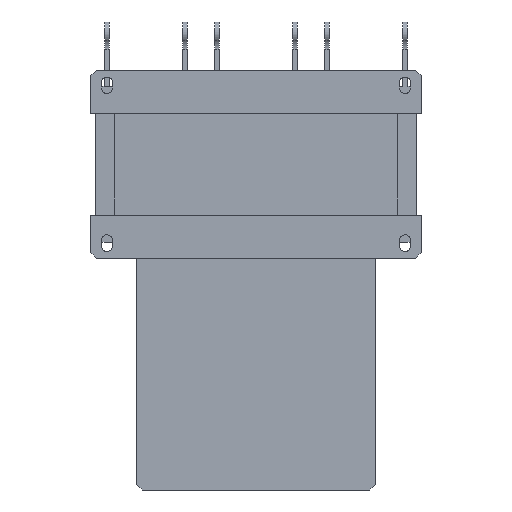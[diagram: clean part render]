
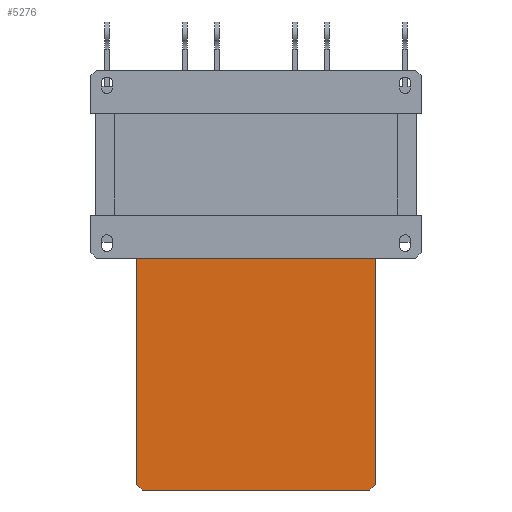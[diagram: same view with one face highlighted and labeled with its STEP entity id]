
A CAD part, front view. The second image highlights one B-rep face of the part: STEP entity #5276.
In plain terms, the highlighted planar face has unit normal (0, -1, 0).
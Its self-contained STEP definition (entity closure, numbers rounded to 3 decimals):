
#592=FACE_OUTER_BOUND('',#936,.T.);
#936=EDGE_LOOP('',(#4325,#4326,#4327,#4328,#4329,#4330));
#1401=LINE('',#8447,#1949);
#1407=LINE('',#8458,#1955);
#1413=LINE('',#8470,#1961);
#1417=LINE('',#8478,#1965);
#1418=LINE('',#8481,#1966);
#1422=LINE('',#8488,#1970);
#1949=VECTOR('',#6887,10.);
#1955=VECTOR('',#6895,10.);
#1961=VECTOR('',#6905,10.);
#1965=VECTOR('',#6911,10.);
#1966=VECTOR('',#6914,10.);
#1970=VECTOR('',#6920,10.);
#2467=VERTEX_POINT('',#8445);
#2468=VERTEX_POINT('',#8446);
#2472=VERTEX_POINT('',#8456);
#2476=VERTEX_POINT('',#8468);
#2479=VERTEX_POINT('',#8476);
#2480=VERTEX_POINT('',#8480);
#3099=EDGE_CURVE('',#2467,#2468,#1401,.T.);
#3105=EDGE_CURVE('',#2467,#2472,#1407,.T.);
#3111=EDGE_CURVE('',#2476,#2472,#1413,.T.);
#3115=EDGE_CURVE('',#2479,#2476,#1417,.T.);
#3116=EDGE_CURVE('',#2468,#2480,#1418,.T.);
#3120=EDGE_CURVE('',#2479,#2480,#1422,.T.);
#4325=ORIENTED_EDGE('',*,*,#3099,.F.);
#4326=ORIENTED_EDGE('',*,*,#3105,.T.);
#4327=ORIENTED_EDGE('',*,*,#3111,.F.);
#4328=ORIENTED_EDGE('',*,*,#3115,.F.);
#4329=ORIENTED_EDGE('',*,*,#3120,.T.);
#4330=ORIENTED_EDGE('',*,*,#3116,.F.);
#5004=PLANE('',#5760);
#5276=ADVANCED_FACE('',(#592),#5004,.T.);
#5760=AXIS2_PLACEMENT_3D('',#8493,#6927,#6928);
#6887=DIRECTION('',(-0.707,0.,0.707));
#6895=DIRECTION('',(1.,0.,0.));
#6905=DIRECTION('',(-0.707,0.,-0.707));
#6911=DIRECTION('',(0.,0.,-1.));
#6914=DIRECTION('',(0.,0.,1.));
#6920=DIRECTION('',(-1.,0.,0.));
#6927=DIRECTION('center_axis',(0.,-1.,0.));
#6928=DIRECTION('ref_axis',(0.,0.,-1.));
#8445=CARTESIAN_POINT('',(-124.,34.,-355.));
#8446=CARTESIAN_POINT('',(-130.,34.,-349.));
#8447=CARTESIAN_POINT('',(-167.375,34.,-311.625));
#8456=CARTESIAN_POINT('',(124.,34.,-355.));
#8458=CARTESIAN_POINT('',(0.,34.,-355.));
#8468=CARTESIAN_POINT('',(130.,34.,-349.));
#8470=CARTESIAN_POINT('',(167.375,34.,-311.625));
#8476=CARTESIAN_POINT('',(130.,34.,-63.5));
#8478=CARTESIAN_POINT('',(130.,34.,-63.5));
#8480=CARTESIAN_POINT('',(-130.,34.,-63.5));
#8481=CARTESIAN_POINT('',(-130.,34.,-63.5));
#8488=CARTESIAN_POINT('',(0.,34.,-63.5));
#8493=CARTESIAN_POINT('Origin',(0.,34.,-63.5));
